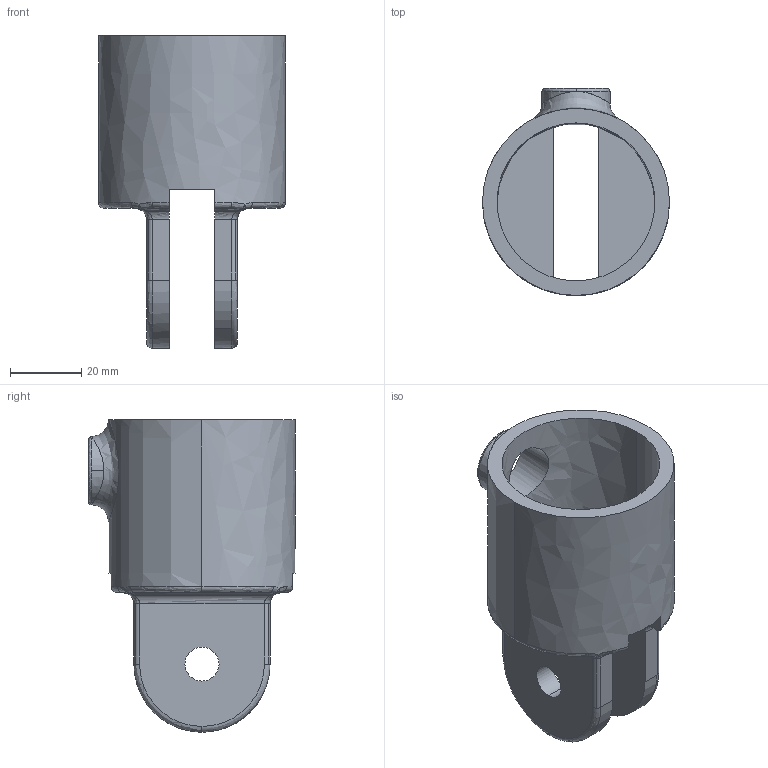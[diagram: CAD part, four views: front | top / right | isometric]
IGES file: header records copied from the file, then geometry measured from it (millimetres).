
Global section: file name: C:\Documents and Settings\Administrator\Desktop\Transfer Temp\kkf50-7.igs; native system: AutoDesk Inventor R2.0 ; preprocessor: AutoDesk Inventor Iges Exporter R2.0; author: No Author specified; organization: No Organization specified; date: 20020101.142337; units: inch
Bounding box: 52.32 x 57.91 x 87.38 mm (x, y, z)
Surface area: 23774.3 mm2 (no closed solid volume)
Topology: 0 solids, 0 shells, 87 faces, 460 edges, 460 vertices
Faces by surface type: revolution 46, bspline 41
